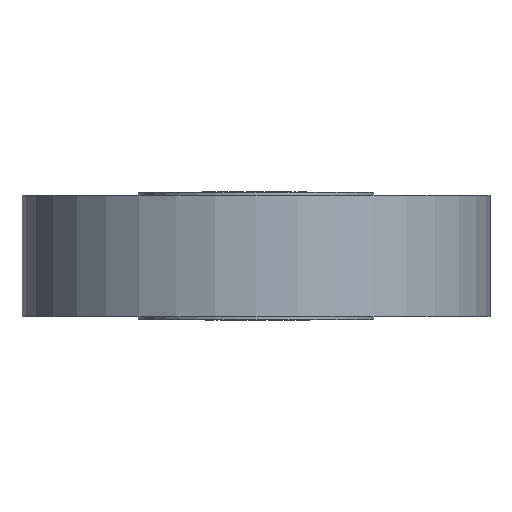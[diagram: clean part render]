
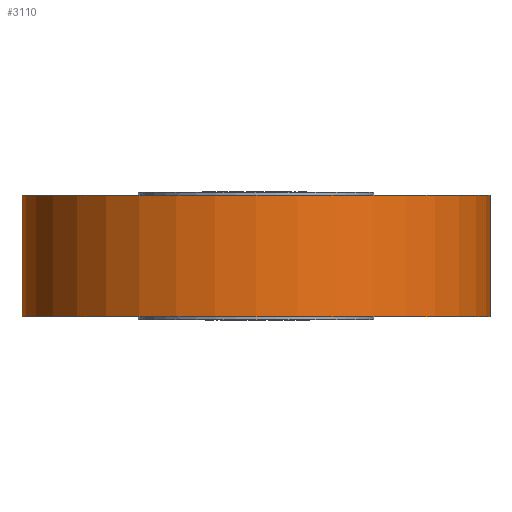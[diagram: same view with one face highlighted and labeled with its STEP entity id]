
A CAD part, front view. The second image highlights one B-rep face of the part: STEP entity #3110.
In plain terms, the highlighted cylindrical face has radius 36.7 mm (diameter 73.4 mm), a partial arc.
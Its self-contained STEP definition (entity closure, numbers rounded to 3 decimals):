
#226 = VERTEX_POINT ( 'NONE', #4932 ) ;
#381 = VERTEX_POINT ( 'NONE', #2876 ) ;
#771 = CARTESIAN_POINT ( 'NONE',  ( 36.7, 0., 17. ) ) ;
#1080 = DIRECTION ( 'NONE',  ( 1., 0., 0. ) ) ;
#1101 = DIRECTION ( 'NONE',  ( 0., 0., 1. ) ) ;
#1341 = DIRECTION ( 'NONE',  ( 1., 0., 0. ) ) ;
#1365 = LINE ( 'NONE', #2339, #2025 ) ;
#1633 = CIRCLE ( 'NONE', #6104, 36.7 ) ;
#1719 = ORIENTED_EDGE ( 'NONE', *, *, #8745, .F. ) ;
#1746 = DIRECTION ( 'NONE',  ( 1., 0., 0. ) ) ;
#1793 = DIRECTION ( 'NONE',  ( 0., 0., 1. ) ) ;
#1896 = CARTESIAN_POINT ( 'NONE',  ( 36.7, 0., 0. ) ) ;
#1974 = VERTEX_POINT ( 'NONE', #2412 ) ;
#2025 = VECTOR ( 'NONE', #7975, 1000. ) ;
#2068 = EDGE_CURVE ( 'NONE', #1974, #226, #6248, .T. ) ;
#2326 = AXIS2_PLACEMENT_3D ( 'NONE', #6024, #1101, #1080 ) ;
#2339 = CARTESIAN_POINT ( 'NONE',  ( -36.7, 0., 0. ) ) ;
#2412 = CARTESIAN_POINT ( 'NONE',  ( -36.7, 0., -2. ) ) ;
#2876 = CARTESIAN_POINT ( 'NONE',  ( -36.7, 0., 17. ) ) ;
#3069 = ORIENTED_EDGE ( 'NONE', *, *, #2068, .T. ) ;
#3110 = ADVANCED_FACE ( 'NONE', ( #8505 ), #7391, .T. ) ;
#3279 = ORIENTED_EDGE ( 'NONE', *, *, #4193, .T. ) ;
#3487 = VERTEX_POINT ( 'NONE', #771 ) ;
#3695 = LINE ( 'NONE', #1896, #7238 ) ;
#3819 = AXIS2_PLACEMENT_3D ( 'NONE', #5998, #1793, #1746 ) ;
#4193 = EDGE_CURVE ( 'NONE', #226, #3487, #3695, .T. ) ;
#4235 = EDGE_LOOP ( 'NONE', ( #1719, #3069, #3279, #6266 ) ) ;
#4720 = DIRECTION ( 'NONE',  ( 0., 0., 1. ) ) ;
#4932 = CARTESIAN_POINT ( 'NONE',  ( 36.7, 0., -2. ) ) ;
#5998 = CARTESIAN_POINT ( 'NONE',  ( 0., 0., 0. ) ) ;
#6024 = CARTESIAN_POINT ( 'NONE',  ( 0., 0., -2. ) ) ;
#6104 = AXIS2_PLACEMENT_3D ( 'NONE', #9133, #6218, #1341 ) ;
#6218 = DIRECTION ( 'NONE',  ( 0., 0., 1. ) ) ;
#6248 = CIRCLE ( 'NONE', #2326, 36.7 ) ;
#6266 = ORIENTED_EDGE ( 'NONE', *, *, #6906, .F. ) ;
#6906 = EDGE_CURVE ( 'NONE', #381, #3487, #1633, .T. ) ;
#7238 = VECTOR ( 'NONE', #4720, 1000. ) ;
#7391 = CYLINDRICAL_SURFACE ( 'NONE', #3819, 36.7 ) ;
#7975 = DIRECTION ( 'NONE',  ( 0., 0., 1. ) ) ;
#8505 = FACE_OUTER_BOUND ( 'NONE', #4235, .T. ) ;
#8745 = EDGE_CURVE ( 'NONE', #1974, #381, #1365, .T. ) ;
#9133 = CARTESIAN_POINT ( 'NONE',  ( 0., 0., 17. ) ) ;
